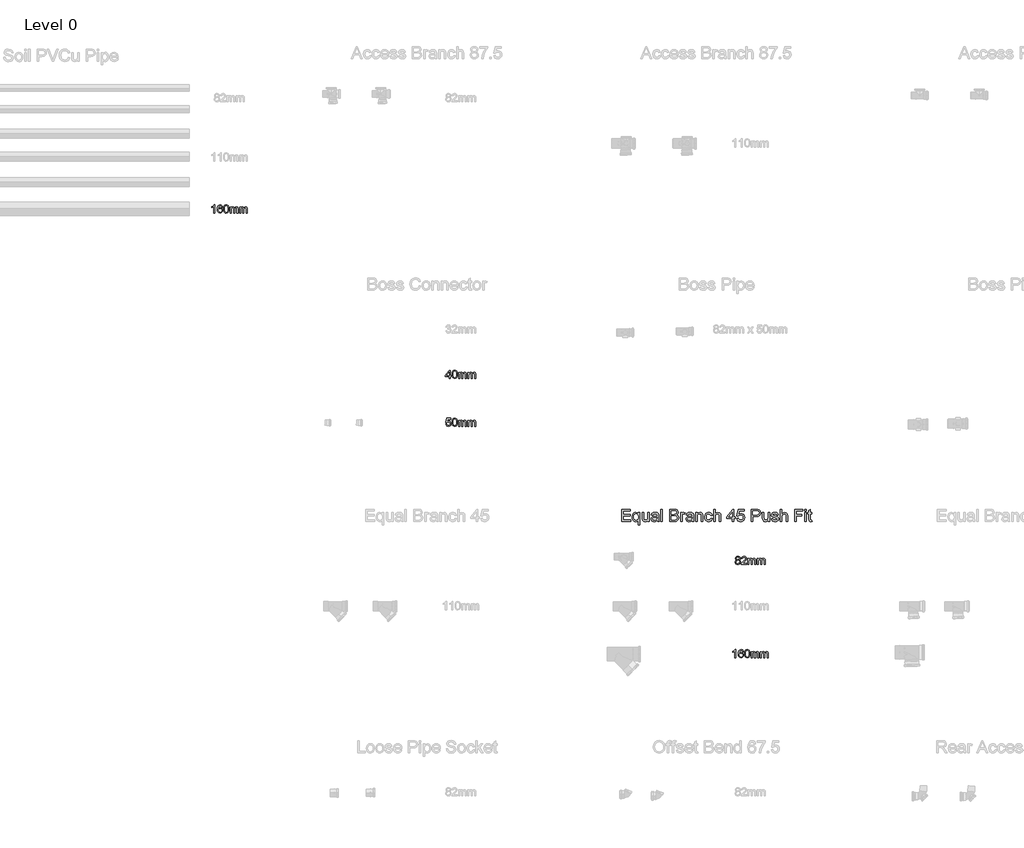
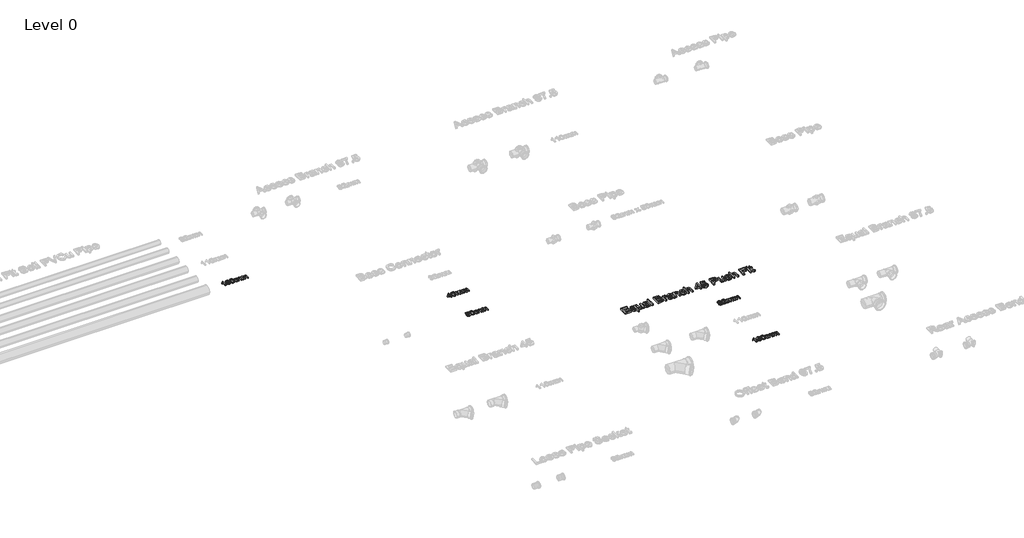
# One storey, part 7 of 23: 6 proxies.
"""IFC4 building model written with IfcOpenShell, lengths in millimetres."""

from ifc_helpers import new_model, si_unit, origin, origin_with_axes, place, context, project, spatial, polyline, outline, extrude, element, save

model = new_model("IFC4")

# Units and contexts
model_context = context("Model", 3, world=origin())
ifc_project = project(units=[si_unit("LENGTHUNIT", "METRE", prefix="MILLI")], contexts=[model_context])

# Site, building, storey
site = spatial("IfcSite", under=ifc_project)
building = spatial("IfcBuilding", under=site)
storey = spatial("IfcBuildingStorey", under=building, Name="Level 0", Elevation=0.0)

# Proxies
placement = place(None, origin())
element("IfcBuildingElementProxy", 1, Name="100mm Arial", ObjectType="100mm Arial", at=placement, inside=storey, context=model_context, shape_type="SweptSolid", body=[
    extrude(outline(polyline([(-23591.7293188, 7438.9614868), (-23604.0370111, 7438.9614868), (-23604.0370111, 7515.692256), (-23615.6956649, 7507.3869676), (-23628.6523957, 7501.1730253), (-23628.6523957, 7512.8076406), (-23610.6115303, 7524.3220637), (-23599.6620111, 7537.4230253), (-23591.7293188, 7537.4230253), (-23591.7293188, 7438.9614868)])), origin_with_axes(), (0.0, 0.0, 1.0), 15.0),
    extrude(outline(polyline([(-23499.4216264, 7511.2691791), (-23511.7293188, 7509.7307176), (-23516.3927803, 7519.9951406), (-23528.7245111, 7525.1153329), (-23539.8302803, 7522.1345637), (-23548.2317226, 7510.9446599), (-23551.7293188, 7489.0095637), (-23540.8759534, 7498.8292753), (-23527.4264341, 7502.0384099), (-23516.0562418, 7499.8449003), (-23506.5129726, 7493.2643714), (-23500.0406168, 7483.2102849), (-23497.8831649, 7470.5961022), (-23501.9456649, 7453.6129291), (-23513.1235495, 7441.5936983), (-23529.2533572, 7437.4230253), (-23543.2166986, 7440.1874483), (-23554.3374918, 7448.4807176), (-23561.6121313, 7463.1201406), (-23564.0370111, 7484.9230253), (-23561.3447034, 7509.4362464), (-23553.2677803, 7526.1970637), (-23542.2401361, 7534.6165349), (-23527.9552803, 7537.4230253), (-23517.1560014, 7535.6862464), (-23508.5081649, 7530.4759099), (-23502.4504726, 7522.2006695), (-23499.4216264, 7511.2691791)]), holes=[polyline([(-23551.7293188, 7470.7884099), (-23548.8807611, 7460.1273522), (-23541.3086457, 7452.3869676), (-23530.2148957, 7449.7307176), (-23522.0929005, 7451.1069195), (-23515.7076841, 7455.2355253), (-23511.5700639, 7461.7259099), (-23510.1908572, 7470.1874483), (-23511.5520351, 7478.3094435), (-23515.6355688, 7484.5023522), (-23530.7197034, 7489.7307176), (-23545.6115303, 7484.5023522), (-23550.1998716, 7478.4596839), (-23551.7293188, 7470.7884099)])]), origin_with_axes(), (0.0, 0.0, 1.0), 15.0),
    extrude(outline(polyline([(-23487.1139341, 7487.3989868), (-23483.4961457, 7515.7283137), (-23472.7509534, 7532.0624483), (-23454.8062418, 7537.4230253), (-23440.4312418, 7534.2499483), (-23430.5033572, 7525.1033137), (-23424.7341264, 7510.536006), (-23422.4985495, 7487.3989868), (-23426.0802803, 7459.1898522), (-23436.7894149, 7442.8196599), (-23454.8062418, 7437.4230253), (-23467.5947034, 7439.7667753), (-23477.3062418, 7446.7980253), (-23484.6620111, 7463.4506695), (-23487.1139341, 7487.3989868)]), holes=[polyline([(-23474.8062418, 7487.4230253), (-23473.3639341, 7468.0630493), (-23469.0370111, 7456.8581214), (-23462.5947034, 7451.5125685), (-23454.8062418, 7449.7307176), (-23447.0177803, 7451.5185781), (-23440.5754726, 7456.8821599), (-23436.2485495, 7468.0930974), (-23434.8062418, 7487.4230253), (-23436.2004726, 7506.3473041), (-23440.3831649, 7517.6393714), (-23446.8134534, 7523.2463426), (-23454.9504726, 7525.1153329), (-23462.6547995, 7523.4686983), (-23468.8447034, 7518.5287945), (-23473.3158572, 7506.5336022), (-23474.8062418, 7487.4230253)])]), origin_with_axes(), (0.0, 0.0, 1.0), 15.0),
    extrude(outline(polyline([(-23408.6523957, 7438.9614868), (-23408.6523957, 7511.2691791), (-23396.3447034, 7511.2691791), (-23396.3447034, 7499.3701406), (-23387.8831649, 7509.1177368), (-23375.8398957, 7512.8076406), (-23363.5081649, 7509.0456214), (-23356.7293188, 7498.504756), (-23347.1259534, 7509.2319195), (-23334.9985495, 7512.8076406), (-23325.7467466, 7511.3202608), (-23318.9047995, 7506.8581214), (-23314.6770351, 7499.3010301), (-23313.2677803, 7488.5287945), (-23313.2677803, 7438.9614868), (-23325.5754726, 7438.9614868), (-23325.5754726, 7483.2403329), (-23326.7172995, 7493.5167753), (-23330.8519149, 7498.5768714), (-23337.8831649, 7500.4999483), (-23349.9865303, 7495.5720637), (-23354.8062418, 7479.7787945), (-23354.8062418, 7438.9614868), (-23367.1139341, 7438.9614868), (-23367.1139341, 7484.6105253), (-23369.9624918, 7496.5336022), (-23379.3014341, 7500.4999483), (-23388.4120111, 7497.8557176), (-23394.4697034, 7490.1153329), (-23396.3447034, 7475.4278329), (-23396.3447034, 7438.9614868), (-23408.6523957, 7438.9614868)])), origin_with_axes(), (0.0, 0.0, 1.0), 15.0),
    extrude(outline(polyline([(-23294.8062418, 7438.9614868), (-23294.8062418, 7511.2691791), (-23282.4985495, 7511.2691791), (-23282.4985495, 7499.3701406), (-23274.0370111, 7509.1177368), (-23261.9937418, 7512.8076406), (-23249.6620111, 7509.0456214), (-23242.8831649, 7498.504756), (-23233.2797995, 7509.2319195), (-23221.1523957, 7512.8076406), (-23211.9005928, 7511.3202608), (-23205.0586457, 7506.8581214), (-23200.8308813, 7499.3010301), (-23199.4216264, 7488.5287945), (-23199.4216264, 7438.9614868), (-23211.7293188, 7438.9614868), (-23211.7293188, 7483.2403329), (-23212.8711457, 7493.5167753), (-23217.0057611, 7498.5768714), (-23224.0370111, 7500.4999483), (-23236.1403764, 7495.5720637), (-23240.960088, 7479.7787945), (-23240.960088, 7438.9614868), (-23253.2677803, 7438.9614868), (-23253.2677803, 7484.6105253), (-23256.116338, 7496.5336022), (-23265.4552803, 7500.4999483), (-23274.5658572, 7497.8557176), (-23280.6235495, 7490.1153329), (-23282.4985495, 7475.4278329), (-23282.4985495, 7438.9614868), (-23294.8062418, 7438.9614868)])), origin_with_axes(), (0.0, 0.0, 1.0), 15.0),
])
element("IfcBuildingElementProxy", 2, Name="100mm Arial", ObjectType="100mm Arial", at=placement, inside=storey, context=model_context, shape_type="SweptSolid", body=[
    extrude(outline(polyline([(-20760.1908572, 5437.7167304), (-20760.1908572, 5460.7936535), (-20804.8062418, 5460.7936535), (-20804.8062418, 5473.1013458), (-20757.1139341, 5534.6398073), (-20747.8831649, 5534.6398073), (-20747.8831649, 5473.1013458), (-20735.5754726, 5473.1013458), (-20735.5754726, 5460.7936535), (-20747.8831649, 5460.7936535), (-20747.8831649, 5437.7167304), (-20760.1908572, 5437.7167304)]), holes=[polyline([(-20760.1908572, 5473.1013458), (-20760.1908572, 5511.1301919), (-20789.6620111, 5473.1013458), (-20760.1908572, 5473.1013458)])]), origin_with_axes(), (0.0, 0.0, 1.0), 15.0),
    extrude(outline(polyline([(-20724.8062418, 5486.1542304), (-20721.1884534, 5514.4835573), (-20710.4432611, 5530.8176919), (-20692.4985495, 5536.1782688), (-20678.1235495, 5533.0051919), (-20668.1956649, 5523.8585573), (-20662.4264341, 5509.2912496), (-20660.1908572, 5486.1542304), (-20663.772588, 5457.9450958), (-20674.4817226, 5441.5749035), (-20692.4985495, 5436.1782688), (-20705.2870111, 5438.5220188), (-20714.9985495, 5445.5532688), (-20722.3543188, 5462.2059131), (-20724.8062418, 5486.1542304)]), holes=[polyline([(-20712.4985495, 5486.1782688), (-20711.0562418, 5466.8182929), (-20706.7293188, 5455.613365), (-20700.2870111, 5450.2678121), (-20692.4985495, 5448.4859611), (-20684.710088, 5450.2738217), (-20678.2677803, 5455.6374035), (-20673.9408572, 5466.848341), (-20672.4985495, 5486.1782688), (-20673.8927803, 5505.1025477), (-20678.0754726, 5516.394615), (-20684.5057611, 5522.0015861), (-20692.6427803, 5523.8705765), (-20700.3471072, 5522.2239419), (-20706.5370111, 5517.2840381), (-20711.0081649, 5505.2888458), (-20712.4985495, 5486.1782688)])]), origin_with_axes(), (0.0, 0.0, 1.0), 15.0),
    extrude(outline(polyline([(-20646.3447034, 5437.7167304), (-20646.3447034, 5510.0244227), (-20634.0370111, 5510.0244227), (-20634.0370111, 5498.1253842), (-20625.5754726, 5507.8729804), (-20613.5322034, 5511.5628842), (-20601.2004726, 5507.800865), (-20594.4216264, 5497.2599996), (-20584.8182611, 5507.9871631), (-20572.6908572, 5511.5628842), (-20563.4390543, 5510.0755044), (-20556.5971072, 5505.613365), (-20552.3693428, 5498.0562736), (-20550.960088, 5487.2840381), (-20550.960088, 5437.7167304), (-20563.2677803, 5437.7167304), (-20563.2677803, 5481.9955765), (-20564.4096072, 5492.2720188), (-20568.5442226, 5497.332115), (-20575.5754726, 5499.2551919), (-20587.678838, 5494.3273073), (-20592.4985495, 5478.5340381), (-20592.4985495, 5437.7167304), (-20604.8062418, 5437.7167304), (-20604.8062418, 5483.3657688), (-20607.6547995, 5495.2888458), (-20616.9937418, 5499.2551919), (-20626.1043188, 5496.6109611), (-20632.1620111, 5488.8705765), (-20634.0370111, 5474.1830765), (-20634.0370111, 5437.7167304), (-20646.3447034, 5437.7167304)])), origin_with_axes(), (0.0, 0.0, 1.0), 15.0),
    extrude(outline(polyline([(-20532.4985495, 5437.7167304), (-20532.4985495, 5510.0244227), (-20520.1908572, 5510.0244227), (-20520.1908572, 5498.1253842), (-20511.7293188, 5507.8729804), (-20499.6860495, 5511.5628842), (-20487.3543188, 5507.800865), (-20480.5754726, 5497.2599996), (-20470.9721072, 5507.9871631), (-20458.8447034, 5511.5628842), (-20449.5929005, 5510.0755044), (-20442.7509534, 5505.613365), (-20438.5231889, 5498.0562736), (-20437.1139341, 5487.2840381), (-20437.1139341, 5437.7167304), (-20449.4216264, 5437.7167304), (-20449.4216264, 5481.9955765), (-20450.5634534, 5492.2720188), (-20454.6980688, 5497.332115), (-20461.7293188, 5499.2551919), (-20473.8326841, 5494.3273073), (-20478.6523957, 5478.5340381), (-20478.6523957, 5437.7167304), (-20490.960088, 5437.7167304), (-20490.960088, 5483.3657688), (-20493.8086457, 5495.2888458), (-20503.147588, 5499.2551919), (-20512.2581649, 5496.6109611), (-20518.3158572, 5488.8705765), (-20520.1908572, 5474.1830765), (-20520.1908572, 5437.7167304), (-20532.4985495, 5437.7167304)])), origin_with_axes(), (0.0, 0.0, 1.0), 15.0),
])
element("IfcBuildingElementProxy", 3, Name="100mm Arial", ObjectType="100mm Arial", at=placement, inside=storey, context=model_context, shape_type="SweptSolid", body=[
    extrude(outline(polyline([(-20800.1908572, 4883.8705765), (-20787.8831649, 4885.4090381), (-20781.6812418, 4872.7287496), (-20768.8206649, 4868.4859611), (-20759.9985495, 4869.9613217), (-20753.3879726, 4874.3874035), (-20749.2593668, 4881.253389), (-20747.8831649, 4890.0484611), (-20753.0394149, 4904.6638458), (-20759.5147755, 4908.6842785), (-20768.6283572, 4910.0244227), (-20779.4336457, 4907.8849996), (-20786.3447034, 4902.332115), (-20798.6523957, 4903.8705765), (-20787.8831649, 4954.6398073), (-20740.1908572, 4954.6398073), (-20740.1908572, 4942.332115), (-20777.9312418, 4942.332115), (-20783.1956649, 4915.2167304), (-20774.4035976, 4920.5532688), (-20765.1908572, 4922.332115), (-20753.6914582, 4920.1265861), (-20744.1451841, 4913.5099996), (-20737.7179005, 4903.425865), (-20735.5754726, 4890.8176919), (-20737.5045591, 4878.5099996), (-20743.2918188, 4867.9811535), (-20754.3735495, 4859.12899), (-20768.8687418, 4856.1782688), (-20780.9570832, 4858.0743025), (-20790.5874918, 4863.7624035), (-20797.1890543, 4872.581514), (-20800.1908572, 4883.8705765)])), origin_with_axes(), (0.0, 0.0, 1.0), 15.0),
    extrude(outline(polyline([(-20724.8062418, 4906.1542304), (-20721.1884534, 4934.4835573), (-20710.4432611, 4950.8176919), (-20692.4985495, 4956.1782688), (-20678.1235495, 4953.0051919), (-20668.1956649, 4943.8585573), (-20662.4264341, 4929.2912496), (-20660.1908572, 4906.1542304), (-20663.772588, 4877.9450958), (-20674.4817226, 4861.5749035), (-20692.4985495, 4856.1782688), (-20705.2870111, 4858.5220188), (-20714.9985495, 4865.5532688), (-20722.3543188, 4882.2059131), (-20724.8062418, 4906.1542304)]), holes=[polyline([(-20712.4985495, 4906.1782688), (-20711.0562418, 4886.8182929), (-20706.7293188, 4875.613365), (-20700.2870111, 4870.2678121), (-20692.4985495, 4868.4859611), (-20684.710088, 4870.2738217), (-20678.2677803, 4875.6374035), (-20673.9408572, 4886.848341), (-20672.4985495, 4906.1782688), (-20673.8927803, 4925.1025477), (-20678.0754726, 4936.394615), (-20684.5057611, 4942.0015861), (-20692.6427803, 4943.8705765), (-20700.3471072, 4942.2239419), (-20706.5370111, 4937.2840381), (-20711.0081649, 4925.2888458), (-20712.4985495, 4906.1782688)])]), origin_with_axes(), (0.0, 0.0, 1.0), 15.0),
    extrude(outline(polyline([(-20646.3447034, 4857.7167304), (-20646.3447034, 4930.0244227), (-20634.0370111, 4930.0244227), (-20634.0370111, 4918.1253842), (-20625.5754726, 4927.8729804), (-20613.5322034, 4931.5628842), (-20601.2004726, 4927.800865), (-20594.4216264, 4917.2599996), (-20584.8182611, 4927.9871631), (-20572.6908572, 4931.5628842), (-20563.4390543, 4930.0755044), (-20556.5971072, 4925.613365), (-20552.3693428, 4918.0562736), (-20550.960088, 4907.2840381), (-20550.960088, 4857.7167304), (-20563.2677803, 4857.7167304), (-20563.2677803, 4901.9955765), (-20564.4096072, 4912.2720188), (-20568.5442226, 4917.332115), (-20575.5754726, 4919.2551919), (-20587.678838, 4914.3273073), (-20592.4985495, 4898.5340381), (-20592.4985495, 4857.7167304), (-20604.8062418, 4857.7167304), (-20604.8062418, 4903.3657688), (-20607.6547995, 4915.2888458), (-20616.9937418, 4919.2551919), (-20626.1043188, 4916.6109611), (-20632.1620111, 4908.8705765), (-20634.0370111, 4894.1830765), (-20634.0370111, 4857.7167304), (-20646.3447034, 4857.7167304)])), origin_with_axes(), (0.0, 0.0, 1.0), 15.0),
    extrude(outline(polyline([(-20532.4985495, 4857.7167304), (-20532.4985495, 4930.0244227), (-20520.1908572, 4930.0244227), (-20520.1908572, 4918.1253842), (-20511.7293188, 4927.8729804), (-20499.6860495, 4931.5628842), (-20487.3543188, 4927.800865), (-20480.5754726, 4917.2599996), (-20470.9721072, 4927.9871631), (-20458.8447034, 4931.5628842), (-20449.5929005, 4930.0755044), (-20442.7509534, 4925.613365), (-20438.5231889, 4918.0562736), (-20437.1139341, 4907.2840381), (-20437.1139341, 4857.7167304), (-20449.4216264, 4857.7167304), (-20449.4216264, 4901.9955765), (-20450.5634534, 4912.2720188), (-20454.6980688, 4917.332115), (-20461.7293188, 4919.2551919), (-20473.8326841, 4914.3273073), (-20478.6523957, 4898.5340381), (-20478.6523957, 4857.7167304), (-20490.960088, 4857.7167304), (-20490.960088, 4903.3657688), (-20493.8086457, 4915.2888458), (-20503.147588, 4919.2551919), (-20512.2581649, 4916.6109611), (-20518.3158572, 4908.8705765), (-20520.1908572, 4894.1830765), (-20520.1908572, 4857.7167304), (-20532.4985495, 4857.7167304)])), origin_with_axes(), (0.0, 0.0, 1.0), 15.0),
])
element("IfcBuildingElementProxy", 4, Name="100mm Arial", ObjectType="100mm Arial", at=placement, inside=storey, context=model_context, shape_type="SweptSolid", body=[
    extrude(outline(polyline([(-17282.2581649, 3240.881174), (-17293.4721072, 3248.5254048), (-17297.1139341, 3260.4244433), (-17295.1307611, 3270.0458375), (-17289.1812418, 3277.9965587), (-17279.9324438, 3283.3330971), (-17268.0514341, 3285.1119433), (-17256.0983091, 3283.2910298), (-17246.7293188, 3277.8282894), (-17240.6716264, 3269.7513663), (-17238.6523957, 3260.0879048), (-17242.2461457, 3248.4893471), (-17253.147588, 3240.881174), (-17240.0586457, 3231.2297317), (-17235.5754726, 3215.304251), (-17237.7990303, 3203.537424), (-17244.4697034, 3193.8138663), (-17254.7701841, 3187.287424), (-17267.8831649, 3185.1119433), (-17280.9961457, 3187.2964385), (-17291.2966264, 3193.849924), (-17297.9672995, 3203.6666308), (-17300.1908572, 3215.6407894), (-17295.5273957, 3231.9388663), (-17282.2581649, 3240.881174)]), holes=[polyline([(-17284.8062418, 3260.0638663), (-17280.4432611, 3250.4004048), (-17267.7389341, 3246.6504048), (-17255.2870111, 3250.3763663), (-17250.960088, 3259.5109817), (-17255.4312418, 3268.9701163), (-17267.8831649, 3272.804251), (-17280.3711457, 3269.054251), (-17284.8062418, 3260.0638663)]), polyline([(-17287.8831649, 3216.0734817), (-17285.8278764, 3206.8066548), (-17278.5562418, 3199.8715587), (-17267.7870111, 3197.4196356), (-17253.1235495, 3202.5758856), (-17247.8831649, 3215.6888663), (-17253.2918188, 3229.054251), (-17259.7221072, 3233.0205971), (-17268.1956649, 3234.3427125), (-17282.678838, 3229.1263663), (-17287.8831649, 3216.0734817)])]), origin_with_axes(), (0.0, 0.0, 1.0), 15.0),
    extrude(outline(polyline([(-17161.7293188, 3198.9580971), (-17161.7293188, 3186.6504048), (-17226.3447034, 3186.6504048), (-17225.022588, 3195.1359817), (-17217.5466264, 3208.2008856), (-17202.1379726, 3222.4677125), (-17180.8879726, 3242.9725202), (-17175.5754726, 3256.9148279), (-17180.5874918, 3268.2008856), (-17193.6764341, 3272.804251), (-17207.3182611, 3268.3090587), (-17212.4985495, 3255.881174), (-17224.8062418, 3257.4196356), (-17221.8224678, 3269.3246837), (-17215.3711457, 3278.0205971), (-17205.7888139, 3283.3391067), (-17193.4120111, 3285.1119433), (-17180.9450639, 3283.1407894), (-17171.3807611, 3277.2273279), (-17165.2960255, 3268.3931933), (-17163.2677803, 3257.6600202), (-17165.4552803, 3245.9893471), (-17172.7269149, 3233.9220394), (-17190.3591264, 3217.0590587), (-17204.5177803, 3205.2201163), (-17210.0706649, 3198.9580971), (-17161.7293188, 3198.9580971)])), origin_with_axes(), (0.0, 0.0, 1.0), 15.0),
    extrude(outline(polyline([(-17146.3447034, 3186.6504048), (-17146.3447034, 3258.9580971), (-17134.0370111, 3258.9580971), (-17134.0370111, 3247.0590587), (-17125.5754726, 3256.8066548), (-17113.5322034, 3260.4965587), (-17101.2004726, 3256.7345394), (-17094.4216264, 3246.193674), (-17084.8182611, 3256.9208375), (-17072.6908572, 3260.4965587), (-17063.4390543, 3259.0091788), (-17056.5971072, 3254.5470394), (-17052.3693428, 3246.9899481), (-17050.960088, 3236.2177125), (-17050.960088, 3186.6504048), (-17063.2677803, 3186.6504048), (-17063.2677803, 3230.929251), (-17064.4096072, 3241.2056933), (-17068.5442226, 3246.2657894), (-17075.5754726, 3248.1888663), (-17087.678838, 3243.2609817), (-17092.4985495, 3227.4677125), (-17092.4985495, 3186.6504048), (-17104.8062418, 3186.6504048), (-17104.8062418, 3232.2994433), (-17107.6547995, 3244.2225202), (-17116.9937418, 3248.1888663), (-17126.1043188, 3245.5446356), (-17132.1620111, 3237.804251), (-17134.0370111, 3223.116751), (-17134.0370111, 3186.6504048), (-17146.3447034, 3186.6504048)])), origin_with_axes(), (0.0, 0.0, 1.0), 15.0),
    extrude(outline(polyline([(-17032.4985495, 3186.6504048), (-17032.4985495, 3258.9580971), (-17020.1908572, 3258.9580971), (-17020.1908572, 3247.0590587), (-17011.7293188, 3256.8066548), (-16999.6860495, 3260.4965587), (-16987.3543188, 3256.7345394), (-16980.5754726, 3246.193674), (-16970.9721072, 3256.9208375), (-16958.8447034, 3260.4965587), (-16949.5929005, 3259.0091788), (-16942.7509534, 3254.5470394), (-16938.5231889, 3246.9899481), (-16937.1139341, 3236.2177125), (-16937.1139341, 3186.6504048), (-16949.4216264, 3186.6504048), (-16949.4216264, 3230.929251), (-16950.5634534, 3241.2056933), (-16954.6980688, 3246.2657894), (-16961.7293188, 3248.1888663), (-16973.8326841, 3243.2609817), (-16978.6523957, 3227.4677125), (-16978.6523957, 3186.6504048), (-16990.960088, 3186.6504048), (-16990.960088, 3232.2994433), (-16993.8086457, 3244.2225202), (-17003.147588, 3248.1888663), (-17012.2581649, 3245.5446356), (-17018.3158572, 3237.804251), (-17020.1908572, 3223.116751), (-17020.1908572, 3186.6504048), (-17032.4985495, 3186.6504048)])), origin_with_axes(), (0.0, 0.0, 1.0), 15.0),
])
element("IfcBuildingElementProxy", 5, Name="100mm Arial", ObjectType="100mm Arial", at=placement, inside=storey, context=model_context, shape_type="SweptSolid", body=[
    extrude(outline(polyline([(-17291.7293188, 2057.7167304), (-17304.0370111, 2057.7167304), (-17304.0370111, 2134.4474996), (-17315.6956649, 2126.1422111), (-17328.6523957, 2119.9282688), (-17328.6523957, 2131.5628842), (-17310.6115303, 2143.0773073), (-17299.6620111, 2156.1782688), (-17291.7293188, 2156.1782688), (-17291.7293188, 2057.7167304)])), origin_with_axes(), (0.0, 0.0, 1.0), 15.0),
    extrude(outline(polyline([(-17199.4216264, 2130.0244227), (-17211.7293188, 2128.4859611), (-17216.3927803, 2138.7503842), (-17228.7245111, 2143.8705765), (-17239.8302803, 2140.8898073), (-17248.2317226, 2129.6999035), (-17251.7293188, 2107.7648073), (-17240.8759534, 2117.5845188), (-17227.4264341, 2120.7936535), (-17216.0562418, 2118.6001438), (-17206.5129726, 2112.019615), (-17200.0406168, 2101.9655285), (-17197.8831649, 2089.3513458), (-17201.9456649, 2072.3681727), (-17213.1235495, 2060.3489419), (-17229.2533572, 2056.1782688), (-17243.2166986, 2058.9426919), (-17254.3374918, 2067.2359611), (-17261.6121313, 2081.8753842), (-17264.0370111, 2103.6782688), (-17261.3447034, 2128.19149), (-17253.2677803, 2144.9523073), (-17242.2401361, 2153.3717785), (-17227.9552803, 2156.1782688), (-17217.1560014, 2154.44149), (-17208.5081649, 2149.2311535), (-17202.4504726, 2140.9559131), (-17199.4216264, 2130.0244227)]), holes=[polyline([(-17251.7293188, 2089.5436535), (-17248.8807611, 2078.8825958), (-17241.3086457, 2071.1422111), (-17230.2148957, 2068.4859611), (-17222.0929005, 2069.8621631), (-17215.7076841, 2073.9907688), (-17211.5700639, 2080.4811535), (-17210.1908572, 2088.9426919), (-17211.5520351, 2097.0646871), (-17215.6355688, 2103.2575958), (-17230.7197034, 2108.4859611), (-17245.6115303, 2103.2575958), (-17250.1998716, 2097.2149275), (-17251.7293188, 2089.5436535)])]), origin_with_axes(), (0.0, 0.0, 1.0), 15.0),
    extrude(outline(polyline([(-17187.1139341, 2106.1542304), (-17183.4961457, 2134.4835573), (-17172.7509534, 2150.8176919), (-17154.8062418, 2156.1782688), (-17140.4312418, 2153.0051919), (-17130.5033572, 2143.8585573), (-17124.7341264, 2129.2912496), (-17122.4985495, 2106.1542304), (-17126.0802803, 2077.9450958), (-17136.7894149, 2061.5749035), (-17154.8062418, 2056.1782688), (-17167.5947034, 2058.5220188), (-17177.3062418, 2065.5532688), (-17184.6620111, 2082.2059131), (-17187.1139341, 2106.1542304)]), holes=[polyline([(-17174.8062418, 2106.1782688), (-17173.3639341, 2086.8182929), (-17169.0370111, 2075.613365), (-17162.5947034, 2070.2678121), (-17154.8062418, 2068.4859611), (-17147.0177803, 2070.2738217), (-17140.5754726, 2075.6374035), (-17136.2485495, 2086.848341), (-17134.8062418, 2106.1782688), (-17136.2004726, 2125.1025477), (-17140.3831649, 2136.394615), (-17146.8134534, 2142.0015861), (-17154.9504726, 2143.8705765), (-17162.6547995, 2142.2239419), (-17168.8447034, 2137.2840381), (-17173.3158572, 2125.2888458), (-17174.8062418, 2106.1782688)])]), origin_with_axes(), (0.0, 0.0, 1.0), 15.0),
    extrude(outline(polyline([(-17108.6523957, 2057.7167304), (-17108.6523957, 2130.0244227), (-17096.3447034, 2130.0244227), (-17096.3447034, 2118.1253842), (-17087.8831649, 2127.8729804), (-17075.8398957, 2131.5628842), (-17063.5081649, 2127.800865), (-17056.7293188, 2117.2599996), (-17047.1259534, 2127.9871631), (-17034.9985495, 2131.5628842), (-17025.7467466, 2130.0755044), (-17018.9047995, 2125.613365), (-17014.6770351, 2118.0562736), (-17013.2677803, 2107.2840381), (-17013.2677803, 2057.7167304), (-17025.5754726, 2057.7167304), (-17025.5754726, 2101.9955765), (-17026.7172995, 2112.2720188), (-17030.8519149, 2117.332115), (-17037.8831649, 2119.2551919), (-17049.9865303, 2114.3273073), (-17054.8062418, 2098.5340381), (-17054.8062418, 2057.7167304), (-17067.1139341, 2057.7167304), (-17067.1139341, 2103.3657688), (-17069.9624918, 2115.2888458), (-17079.3014341, 2119.2551919), (-17088.4120111, 2116.6109611), (-17094.4697034, 2108.8705765), (-17096.3447034, 2094.1830765), (-17096.3447034, 2057.7167304), (-17108.6523957, 2057.7167304)])), origin_with_axes(), (0.0, 0.0, 1.0), 15.0),
    extrude(outline(polyline([(-16994.8062418, 2057.7167304), (-16994.8062418, 2130.0244227), (-16982.4985495, 2130.0244227), (-16982.4985495, 2118.1253842), (-16974.0370111, 2127.8729804), (-16961.9937418, 2131.5628842), (-16949.6620111, 2127.800865), (-16942.8831649, 2117.2599996), (-16933.2797995, 2127.9871631), (-16921.1523957, 2131.5628842), (-16911.9005928, 2130.0755044), (-16905.0586457, 2125.613365), (-16900.8308813, 2118.0562736), (-16899.4216264, 2107.2840381), (-16899.4216264, 2057.7167304), (-16911.7293188, 2057.7167304), (-16911.7293188, 2101.9955765), (-16912.8711457, 2112.2720188), (-16917.0057611, 2117.332115), (-16924.0370111, 2119.2551919), (-16936.1403764, 2114.3273073), (-16940.960088, 2098.5340381), (-16940.960088, 2057.7167304), (-16953.2677803, 2057.7167304), (-16953.2677803, 2103.3657688), (-16956.116338, 2115.2888458), (-16965.4552803, 2119.2551919), (-16974.5658572, 2116.6109611), (-16980.6235495, 2108.8705765), (-16982.4985495, 2094.1830765), (-16982.4985495, 2057.7167304), (-16994.8062418, 2057.7167304)])), origin_with_axes(), (0.0, 0.0, 1.0), 15.0),
])
element("IfcBuildingElementProxy", 6, Name="150mm Arial", ObjectType="150mm Arial", at=placement, inside=storey, context=model_context, shape_type="SweptSolid", body=[
    extrude(outline(polyline([(-18673.6818358, 3705.2145219), (-18673.6818358, 3852.9068296), (-18567.5279897, 3852.9068296), (-18567.5279897, 3834.4452911), (-18655.2202973, 3834.4452911), (-18655.2202973, 3790.5991373), (-18572.1433743, 3790.5991373), (-18572.1433743, 3772.1375988), (-18655.2202973, 3772.1375988), (-18655.2202973, 3723.6760604), (-18565.2202973, 3723.6760604), (-18565.2202973, 3705.2145219), (-18673.6818358, 3705.2145219)])), origin_with_axes(), (0.0, 0.0, 1.0), 25.0),
    extrude(outline(polyline([(-18472.912605, 3663.6760604), (-18472.912605, 3719.9981758), (-18484.631355, 3707.7746181), (-18500.6409704, 3702.9068296), (-18518.1920522, 3706.7514811), (-18533.1289512, 3718.2854354), (-18543.351307, 3736.5171061), (-18546.7587589, 3760.4549065), (-18541.350105, 3789.697695), (-18534.7245041, 3801.0738969), (-18525.6650089, 3809.3130796), (-18514.8927733, 3814.3160844), (-18503.1289512, 3815.9837527), (-18485.9654897, 3810.8094738), (-18472.912605, 3795.2866373), (-18472.912605, 3813.6760604), (-18454.4510666, 3813.6760604), (-18454.4510666, 3663.6760604), (-18472.912605, 3663.6760604)]), holes=[polyline([(-18528.2972204, 3759.4452911), (-18526.2193959, 3742.7866373), (-18519.9859223, 3730.8875988), (-18510.8498046, 3723.7481758), (-18500.0640473, 3721.3683681), (-18489.7290113, 3723.6309883), (-18480.9354416, 3730.4188488), (-18474.9183142, 3741.8311085), (-18472.912605, 3757.9669258), (-18475.0264872, 3775.2160243), (-18481.3681339, 3787.58832), (-18490.5583382, 3795.0387407), (-18501.2178935, 3797.5222142), (-18511.6791315, 3795.2100147), (-18520.4186147, 3788.2734161), (-18526.327569, 3776.4419859), (-18528.2972204, 3759.4452911)])]), origin_with_axes(), (0.0, 0.0, 1.0), 25.0),
    extrude(outline(polyline([(-18357.5279897, 3705.2145219), (-18357.5279897, 3723.8563488), (-18371.9871243, 3708.1442094), (-18390.8452973, 3702.9068296), (-18408.2070762, 3706.5847142), (-18420.17823, 3715.8154835), (-18425.6770281, 3729.4092335), (-18426.7587589, 3746.572695), (-18426.7587589, 3813.6760604), (-18408.2972204, 3813.6760604), (-18408.2972204, 3755.2625988), (-18407.179432, 3736.4404835), (-18399.8777493, 3725.3888008), (-18386.1217397, 3721.3683681), (-18370.7070762, 3725.478945), (-18360.5207781, 3736.6748585), (-18357.5279897, 3757.2457719), (-18357.5279897, 3813.6760604), (-18339.0664512, 3813.6760604), (-18339.0664512, 3705.2145219), (-18357.5279897, 3705.2145219)])), origin_with_axes(), (0.0, 0.0, 1.0), 25.0),
    extrude(outline(polyline([(-18244.4510666, 3719.0606758), (-18262.3537108, 3706.5486565), (-18282.131355, 3702.9068296), (-18297.5595401, 3705.0973344), (-18308.9402493, 3711.6688488), (-18315.9579776, 3721.6478152), (-18318.2972204, 3734.0606758), (-18314.7635666, 3748.6640411), (-18305.4787108, 3759.2650027), (-18292.5520281, 3765.322695), (-18276.5784704, 3768.0991373), (-18244.5592397, 3774.4452911), (-18244.4510666, 3778.5558681), (-18245.7221002, 3786.7950508), (-18249.5352012, 3792.1856758), (-18258.0628454, 3796.1880796), (-18269.943855, 3797.5222142), (-18288.6217397, 3793.9705315), (-18297.5279897, 3781.3683681), (-18315.9895281, 3783.6760604), (-18308.0027493, 3801.7049065), (-18291.9210185, 3812.2698104), (-18267.5640473, 3815.9837527), (-18245.1902493, 3812.7025027), (-18232.5520281, 3804.46332), (-18226.8909704, 3791.9332719), (-18225.9895281, 3775.7794258), (-18225.9895281, 3752.8106758), (-18225.0520281, 3720.7373585), (-18221.3741435, 3705.2145219), (-18239.835682, 3705.2145219), (-18244.4510666, 3719.0606758)]), holes=[polyline([(-18244.4510666, 3755.9837527), (-18274.2347204, 3750.322695), (-18290.1181339, 3747.3299065), (-18297.3116435, 3742.4621181), (-18299.835682, 3735.3587527), (-18294.3368839, 3725.3707719), (-18278.2010666, 3721.3683681), (-18259.523182, 3725.7854354), (-18247.4799127, 3736.4765411), (-18244.5592397, 3750.7553873), (-18244.4510666, 3755.9837527)])]), origin_with_axes(), (0.0, 0.0, 1.0), 25.0),
    extrude(outline(polyline([(-18200.6049127, 3705.2145219), (-18200.6049127, 3852.9068296), (-18182.1433743, 3852.9068296), (-18182.1433743, 3705.2145219), (-18200.6049127, 3705.2145219)])), origin_with_axes(), (0.0, 0.0, 1.0), 25.0),
    extrude(outline(polyline([(-18094.4510666, 3705.2145219), (-18094.4510666, 3852.9068296), (-18038.0928935, 3852.9068296), (-18010.49073, 3848.5618777), (-18001.2148887, 3843.049558), (-17994.1926531, 3835.2025027), (-17988.2972204, 3816.3082719), (-17993.2551531, 3799.0546661), (-18008.2371243, 3785.9837527), (-17997.7758863, 3780.5210123), (-17990.0460185, 3772.2097142), (-17985.2728815, 3761.5997383), (-17983.6818358, 3749.2409642), (-17988.0267877, 3729.3912046), (-17998.7900089, 3715.2565892), (-18014.8537108, 3707.7565892), (-18038.5255858, 3705.2145219), (-18094.4510666, 3705.2145219)]), holes=[polyline([(-18075.9895281, 3723.6760604), (-18038.1289512, 3723.6760604), (-18024.4270281, 3724.3972142), (-18012.83448, 3728.4176469), (-18005.1541916, 3736.6207719), (-18002.1433743, 3749.0606758), (-18005.6770281, 3763.4116373), (-18017.1253454, 3771.9753392), (-18039.9318358, 3774.4452911), (-18075.9895281, 3774.4452911), (-18075.9895281, 3723.6760604)]), polyline([(-18075.9895281, 3792.9068296), (-18042.2755858, 3792.9068296), (-18022.5880858, 3794.4933681), (-18010.7431339, 3801.3263008), (-18006.7587589, 3813.3515411), (-18010.4727012, 3825.3948104), (-18021.1097204, 3832.5162046), (-18044.835682, 3834.4452911), (-18075.9895281, 3834.4452911), (-18075.9895281, 3792.9068296)])]), origin_with_axes(), (0.0, 0.0, 1.0), 25.0),
    extrude(outline(polyline([(-17960.6049127, 3705.2145219), (-17960.6049127, 3813.6760604), (-17944.4510666, 3813.6760604), (-17944.4510666, 3797.6303873), (-17932.9847204, 3812.4140411), (-17921.4462589, 3815.9837527), (-17902.912605, 3810.2866373), (-17909.0784704, 3793.7361565), (-17922.0592397, 3797.5222142), (-17932.4979416, 3793.8803873), (-17939.1505858, 3783.7842335), (-17942.1433743, 3762.2217335), (-17942.1433743, 3705.2145219), (-17960.6049127, 3705.2145219)])), origin_with_axes(), (0.0, 0.0, 1.0), 25.0),
    extrude(outline(polyline([(-17822.1433743, 3719.0606758), (-17840.0460185, 3706.5486565), (-17859.8236627, 3702.9068296), (-17875.2518478, 3705.0973344), (-17886.632557, 3711.6688488), (-17893.6502853, 3721.6478152), (-17895.9895281, 3734.0606758), (-17892.4558743, 3748.6640411), (-17883.1710185, 3759.2650027), (-17870.2443358, 3765.322695), (-17854.2707781, 3768.0991373), (-17822.2515473, 3774.4452911), (-17822.1433743, 3778.5558681), (-17823.4144079, 3786.7950508), (-17827.2275089, 3792.1856758), (-17835.7551531, 3796.1880796), (-17847.6361627, 3797.5222142), (-17866.3140473, 3793.9705315), (-17875.2202973, 3781.3683681), (-17893.6818358, 3783.6760604), (-17885.695057, 3801.7049065), (-17869.6133262, 3812.2698104), (-17845.256355, 3815.9837527), (-17822.882557, 3812.7025027), (-17810.2443358, 3804.46332), (-17804.5832781, 3791.9332719), (-17803.6818358, 3775.7794258), (-17803.6818358, 3752.8106758), (-17802.7443358, 3720.7373585), (-17799.0664512, 3705.2145219), (-17817.5279897, 3705.2145219), (-17822.1433743, 3719.0606758)]), holes=[polyline([(-17822.1433743, 3755.9837527), (-17851.9270281, 3750.322695), (-17867.8104416, 3747.3299065), (-17875.0039512, 3742.4621181), (-17877.5279897, 3735.3587527), (-17872.0291916, 3725.3707719), (-17855.8933743, 3721.3683681), (-17837.2154897, 3725.7854354), (-17825.1722204, 3736.4765411), (-17822.2515473, 3750.7553873), (-17822.1433743, 3755.9837527)])]), origin_with_axes(), (0.0, 0.0, 1.0), 25.0),
    extrude(outline(polyline([(-17778.2972204, 3705.2145219), (-17778.2972204, 3813.6760604), (-17759.835682, 3813.6760604), (-17759.835682, 3798.5318296), (-17745.7190954, 3811.6207719), (-17726.4462589, 3815.9837527), (-17709.0123647, 3812.4681277), (-17697.1133262, 3803.2373585), (-17691.5784704, 3789.6616373), (-17690.6049127, 3771.8130796), (-17690.6049127, 3705.2145219), (-17709.0664512, 3705.2145219), (-17709.0664512, 3769.3250988), (-17711.193855, 3785.6592335), (-17718.7118839, 3794.2950508), (-17731.3861627, 3797.5222142), (-17742.1989632, 3795.7103152), (-17751.4162108, 3790.2746181), (-17757.7308142, 3779.7728152), (-17759.835682, 3762.7625988), (-17759.835682, 3705.2145219), (-17778.2972204, 3705.2145219)])), origin_with_axes(), (0.0, 0.0, 1.0), 25.0),
    extrude(outline(polyline([(-17595.9895281, 3744.4452911), (-17577.5279897, 3742.1375988), (-17582.6752252, 3725.7178272), (-17592.3477012, 3713.3094738), (-17605.6349608, 3705.5074907), (-17621.6265473, 3702.9068296), (-17641.264468, 3706.5351349), (-17656.6205377, 3717.4200508), (-17666.5318959, 3735.0838128), (-17669.835682, 3759.0486565), (-17664.1926531, 3789.7157238), (-17657.0712589, 3801.2136205), (-17646.9931339, 3809.4212527), (-17634.936343, 3814.3431277), (-17621.8789512, 3815.9837527), (-17606.2794921, 3813.7301469), (-17593.8080377, 3806.9693296), (-17584.8612228, 3796.0618777), (-17579.835682, 3781.3683681), (-17598.2972204, 3779.0606758), (-17606.8609223, 3792.8888008), (-17621.7347204, 3797.5222142), (-17633.6653094, 3795.2415652), (-17643.1349608, 3788.3996181), (-17649.3143478, 3776.6267815), (-17651.3741435, 3759.5534642), (-17649.3594199, 3742.2502791), (-17643.3152493, 3730.4368777), (-17634.0168719, 3723.6354955), (-17622.2395281, 3721.3683681), (-17612.6797324, 3722.7836325), (-17604.8416916, 3727.0294258), (-17599.140069, 3734.213921), (-17595.9895281, 3744.4452911)])), origin_with_axes(), (0.0, 0.0, 1.0), 25.0),
    extrude(outline(polyline([(-17561.3741435, 3705.2145219), (-17561.3741435, 3852.9068296), (-17542.912605, 3852.9068296), (-17542.912605, 3798.603945), (-17528.5165714, 3811.6388008), (-17510.7852012, 3815.9837527), (-17490.0520281, 3811.2421661), (-17477.4678935, 3798.135195), (-17473.6818358, 3773.8683681), (-17473.6818358, 3705.2145219), (-17492.1433743, 3705.2145219), (-17492.1433743, 3771.9573104), (-17493.6127252, 3783.5138008), (-17498.0207781, 3791.4284642), (-17505.1241435, 3795.9987767), (-17514.679432, 3797.5222142), (-17529.8056339, 3793.4116373), (-17539.9017877, 3782.2698104), (-17542.912605, 3762.8347142), (-17542.912605, 3705.2145219), (-17561.3741435, 3705.2145219)])), origin_with_axes(), (0.0, 0.0, 1.0), 25.0),
    extrude(outline(polyline([(-17335.2202973, 3705.2145219), (-17335.2202973, 3739.8299065), (-17402.1433743, 3739.8299065), (-17402.1433743, 3758.291445), (-17330.6049127, 3850.5991373), (-17316.7587589, 3850.5991373), (-17316.7587589, 3758.291445), (-17298.2972204, 3758.291445), (-17298.2972204, 3739.8299065), (-17316.7587589, 3739.8299065), (-17316.7587589, 3705.2145219), (-17335.2202973, 3705.2145219)]), holes=[polyline([(-17335.2202973, 3758.291445), (-17335.2202973, 3815.3347142), (-17379.4270281, 3758.291445), (-17335.2202973, 3758.291445)])]), origin_with_axes(), (0.0, 0.0, 1.0), 25.0),
    extrude(outline(polyline([(-17282.1433743, 3744.4452911), (-17263.6818358, 3746.7529835), (-17260.2924127, 3735.6697503), (-17254.3789512, 3727.7325508), (-17245.9684945, 3722.9594137), (-17235.0880858, 3721.3683681), (-17221.8549127, 3723.5814089), (-17211.9390473, 3730.2205315), (-17205.7461387, 3740.5195099), (-17203.6818358, 3753.7121181), (-17205.6154296, 3766.1339931), (-17211.4162108, 3775.635195), (-17221.1292517, 3781.665844), (-17234.7996243, 3783.6760604), (-17251.007557, 3780.4669258), (-17261.3741435, 3772.1375988), (-17279.835682, 3774.4452911), (-17263.6818358, 3850.5991373), (-17192.1433743, 3850.5991373), (-17192.1433743, 3832.1375988), (-17248.7539512, 3832.1375988), (-17256.6505858, 3791.4645219), (-17243.4624848, 3799.4693296), (-17229.6433743, 3802.1375988), (-17212.3942757, 3798.8293056), (-17198.0748647, 3788.9044258), (-17188.4339392, 3773.7782238), (-17185.2202973, 3754.8659642), (-17188.1139272, 3736.4044258), (-17196.7948166, 3720.6111565), (-17213.4174127, 3707.3329113), (-17235.1602012, 3702.9068296), (-17253.2927132, 3705.7508801), (-17267.7383262, 3714.2830315), (-17277.6406699, 3727.5116974), (-17282.1433743, 3744.4452911)])), origin_with_axes(), (0.0, 0.0, 1.0), 25.0),
    extrude(outline(polyline([(-17104.4510666, 3705.2145219), (-17104.4510666, 3852.9068296), (-17049.7154897, 3852.9068296), (-17027.648182, 3851.5005796), (-17009.70948, 3844.5955315), (-16998.0808743, 3830.3166854), (-16993.6818358, 3810.1784642), (-16996.6520882, 3792.7716133), (-17005.5628454, 3778.2674065), (-17022.2260065, 3768.4777431), (-17048.4534704, 3765.2145219), (-17085.9895281, 3765.2145219), (-17085.9895281, 3705.2145219), (-17104.4510666, 3705.2145219)]), holes=[polyline([(-17085.9895281, 3783.6760604), (-17047.3717397, 3783.6760604), (-17031.0015473, 3785.3707719), (-17020.1842397, 3790.4549065), (-17014.1535906, 3798.6129594), (-17012.1433743, 3809.5294258), (-17016.8849608, 3824.8178873), (-17029.3428935, 3833.1832719), (-17047.804432, 3834.4452911), (-17085.9895281, 3834.4452911), (-17085.9895281, 3783.6760604)])]), origin_with_axes(), (0.0, 0.0, 1.0), 25.0),
    extrude(outline(polyline([(-16901.3741435, 3705.2145219), (-16901.3741435, 3723.8563488), (-16915.8332781, 3708.1442094), (-16934.6914512, 3702.9068296), (-16952.05323, 3706.5847142), (-16964.0243839, 3715.8154835), (-16969.523182, 3729.4092335), (-16970.6049127, 3746.572695), (-16970.6049127, 3813.6760604), (-16952.1433743, 3813.6760604), (-16952.1433743, 3755.2625988), (-16951.0255858, 3736.4404835), (-16943.7239031, 3725.3888008), (-16929.9678935, 3721.3683681), (-16914.55323, 3725.478945), (-16904.366932, 3736.6748585), (-16901.3741435, 3757.2457719), (-16901.3741435, 3813.6760604), (-16882.912605, 3813.6760604), (-16882.912605, 3705.2145219), (-16901.3741435, 3705.2145219)])), origin_with_axes(), (0.0, 0.0, 1.0), 25.0),
    extrude(outline(polyline([(-16864.4510666, 3737.5222142), (-16845.9895281, 3739.8299065), (-16843.0778695, 3731.9332719), (-16837.443855, 3726.1279835), (-16817.8645281, 3721.3683681), (-16799.0424127, 3725.7313488), (-16792.912605, 3735.9717335), (-16799.0784704, 3744.2650027), (-16818.0808743, 3749.5294258), (-16845.881355, 3758.5618777), (-16858.0147685, 3769.1087527), (-16862.1433743, 3784.0005796), (-16858.8260666, 3797.7565892), (-16849.7755858, 3808.2674065), (-16838.038807, 3813.7301469), (-16822.1553935, 3815.9837527), (-16799.6914512, 3812.3599546), (-16785.412605, 3802.5522623), (-16779.0664512, 3785.9837527), (-16797.5279897, 3783.6760604), (-16804.4690954, 3793.8623585), (-16820.7130858, 3797.5222142), (-16838.381355, 3794.0246181), (-16843.6818358, 3785.8755796), (-16841.4823166, 3780.5029835), (-16834.5952973, 3776.4284642), (-16818.693855, 3772.4981758), (-16791.5964993, 3763.8082719), (-16779.0123647, 3753.9645219), (-16774.4510666, 3737.9188488), (-16779.8056339, 3720.2505796), (-16795.256355, 3707.43207), (-16818.116932, 3702.9068296), (-16836.7317156, 3705.08832), (-16850.3164512, 3711.6327911), (-16859.3849608, 3722.4681277), (-16864.4510666, 3737.5222142)])), origin_with_axes(), (0.0, 0.0, 1.0), 25.0),
    extrude(outline(polyline([(-16753.6818358, 3705.2145219), (-16753.6818358, 3852.9068296), (-16735.2202973, 3852.9068296), (-16735.2202973, 3798.603945), (-16720.8242637, 3811.6388008), (-16703.0928935, 3815.9837527), (-16682.3597204, 3811.2421661), (-16669.7755858, 3798.135195), (-16665.9895281, 3773.8683681), (-16665.9895281, 3705.2145219), (-16684.4510666, 3705.2145219), (-16684.4510666, 3771.9573104), (-16685.9204175, 3783.5138008), (-16690.3284704, 3791.4284642), (-16697.4318358, 3795.9987767), (-16706.9871243, 3797.5222142), (-16722.1133262, 3793.4116373), (-16732.20948, 3782.2698104), (-16735.2202973, 3762.8347142), (-16735.2202973, 3705.2145219), (-16753.6818358, 3705.2145219)])), origin_with_axes(), (0.0, 0.0, 1.0), 25.0),
    extrude(outline(polyline([(-16580.6049127, 3705.2145219), (-16580.6049127, 3852.9068296), (-16481.3741435, 3852.9068296), (-16481.3741435, 3834.4452911), (-16562.1433743, 3834.4452911), (-16562.1433743, 3790.5991373), (-16492.912605, 3790.5991373), (-16492.912605, 3772.1375988), (-16562.1433743, 3772.1375988), (-16562.1433743, 3705.2145219), (-16580.6049127, 3705.2145219)])), origin_with_axes(), (0.0, 0.0, 1.0), 25.0),
    extrude(outline(polyline([(-16458.2972204, 3705.2145219), (-16458.2972204, 3813.6760604), (-16439.835682, 3813.6760604), (-16439.835682, 3705.2145219), (-16458.2972204, 3705.2145219)])), origin_with_axes(), (0.0, 0.0, 1.0), 25.0),
    extrude(outline(polyline([(-16458.2972204, 3834.4452911), (-16458.2972204, 3852.9068296), (-16439.835682, 3852.9068296), (-16439.835682, 3834.4452911), (-16458.2972204, 3834.4452911)])), origin_with_axes(), (0.0, 0.0, 1.0), 25.0),
    extrude(outline(polyline([(-16372.912605, 3720.6111565), (-16370.6049127, 3704.6736565), (-16384.4150089, 3702.9068296), (-16399.8837589, 3705.9717335), (-16407.600105, 3714.0125988), (-16409.835682, 3734.9621181), (-16409.835682, 3795.2145219), (-16423.6818358, 3795.2145219), (-16423.6818358, 3813.6760604), (-16409.835682, 3813.6760604), (-16409.835682, 3840.0342335), (-16391.3741435, 3850.8875988), (-16391.3741435, 3813.6760604), (-16372.912605, 3813.6760604), (-16372.912605, 3795.2145219), (-16391.3741435, 3795.2145219), (-16391.3741435, 3735.5029835), (-16390.4005858, 3725.9837527), (-16387.2455377, 3722.6123585), (-16380.9534704, 3721.3683681), (-16372.912605, 3720.6111565)])), origin_with_axes(), (0.0, 0.0, 1.0), 25.0),
])

save(model, "model.ifc")
